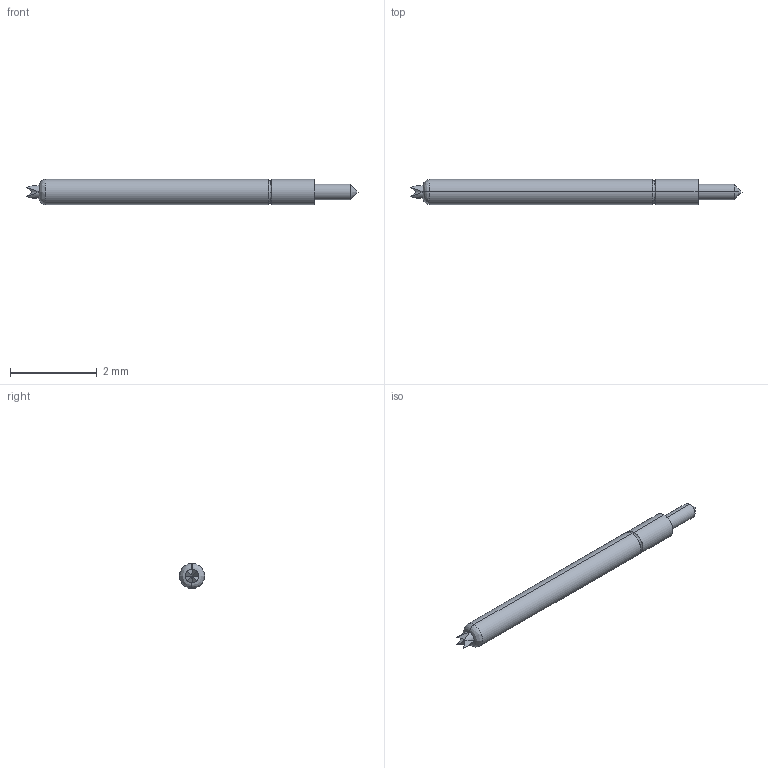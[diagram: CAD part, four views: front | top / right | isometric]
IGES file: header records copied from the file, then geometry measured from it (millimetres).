
Start section: SolidWorks IGES file using analytic representation for surfaces
Global section: file name: Z:\probe solid model mockups\Solidworks models\IGES Files\CSP8-25 IGES files\CSP8-25BL Full.IGS; native system: SolidWorks 2006 by SolidWorks Corporation; preprocessor: SolidWorks 2006 by SolidWorks Corporation; author: tsakatani; date: 080108.153657; units: inch
Bounding box: 7.67 x 0.58 x 0.58 mm (x, y, z)
Surface area: 13.4 mm2 (no closed solid volume)
Topology: 0 solids, 0 shells, 32 faces, 172 edges, 170 vertices
Faces by surface type: revolution 17, bspline 15
